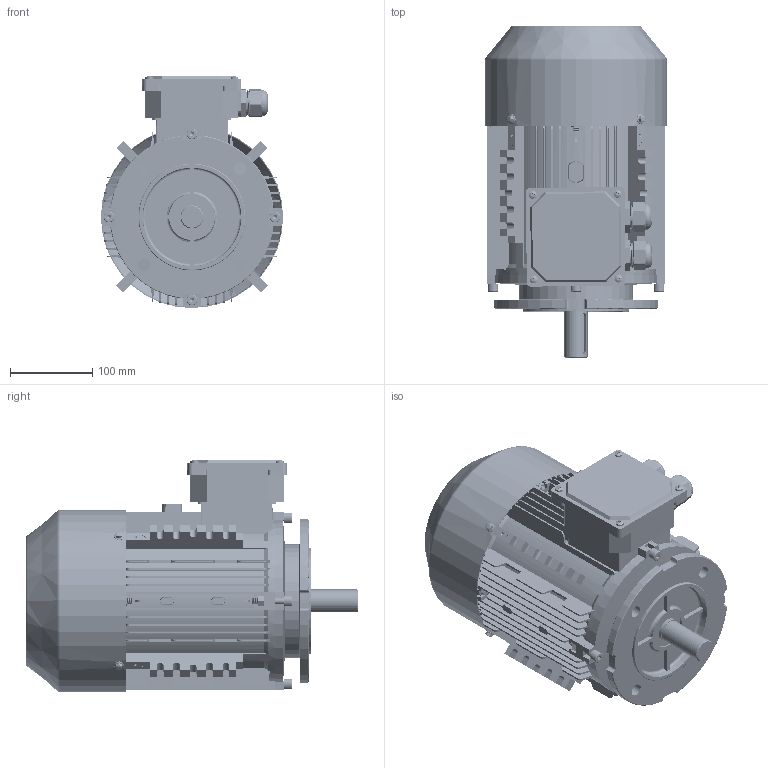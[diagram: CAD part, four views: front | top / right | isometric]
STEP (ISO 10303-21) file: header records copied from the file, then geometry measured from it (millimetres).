
FILE_DESCRIPTION (( 'STEP AP203' ), '1' );
FILE_NAME ('ME3-112B5R 3D.STEP', '2024-07-12T07:02:24', ( 'User' ), ( 'China' ), 'SwSTEP 2.0', 'SolidWorks 2018', '' );
FILE_SCHEMA (( 'CONFIG_CONTROL_DESIGN' ));
Length unit declared in the file: millimetre
Products named in the file (17): ME3-112B5R傷裔; spring lock washers--normal type gb_GB_FASTENER_WASHER_SW 8; ME3-112B5R 3D; 蚐猾45X30X7; ME3-112 儂褲; ME3-112瑞欶; ME3-112B3傷裔; cross recessed pan head screws gb_GB_CROSS_SCREWS_TYPE1 M5X8-8  H type-S; deep groove ball bearings gb_Rolling bearings 6306 GB 276-94; hex flange bolts-heavy grade b gb_GB_FASTENER_BOLT_HFBB M5X10-S; ME3-112 转轴（386）; M24 蹟杶; MS112-132 諉盄碟釱; M24 蹟杶簸; hexagon socket head cap screws gb_GB_FASTENER_SCREWS_HSHCS M8X40-S; MS112-132諉盄碟裔; hex nuts-style normal-grades ab gb_GB_HEXAGON_TYPE10 M8X1-S
Assembly tree (45 placements, depth 2):
  ME3-112B5R 3D
    ME3-112 儂褲
    ME3-112B3傷裔
    deep groove ball bearings gb_Rolling bearings 6306 GB 276-94  x2
    ME3-112 转轴（386）
    MS112-132 諉盄碟釱
    hexagon socket head cap screws gb_GB_FASTENER_SCREWS_HSHCS M8X40-S  x8
    hex nuts-style normal-grades ab gb_GB_HEXAGON_TYPE10 M8X1-S  x7
    spring lock washers--normal type gb_GB_FASTENER_WASHER_SW 8  x4
    蚐猾45X30X7
    ME3-112瑞欶
    cross recessed pan head screws gb_GB_CROSS_SCREWS_TYPE1 M5X8-8  H type-S  x8
    hex flange bolts-heavy grade b gb_GB_FASTENER_BOLT_HFBB M5X10-S  x4
    M24 蹟杶  x2
    M24 蹟杶簸  x2
    MS112-132諉盄碟裔
    ME3-112B5R傷裔
Bounding box: 221.6 x 403.61 x 282.3 mm (x, y, z)
Volume: 2618261.5 mm3; surface area: 1234929.5 mm2
Topology: 45 solids, 46 shells, 6390 faces, 15616 edges, 9294 vertices
Faces by surface type: cone 2357, plane 1854, cylinder 1831, torus 232, sphere 72, bspline 44
Entity records: 110511 total; most frequent: CARTESIAN_POINT 29786, ORIENTED_EDGE 16902, DIRECTION 15680, EDGE_CURVE 8451, VERTEX_POINT 5429, AXIS2_PLACEMENT_3D 5336, VECTOR 5008, LINE 5008
